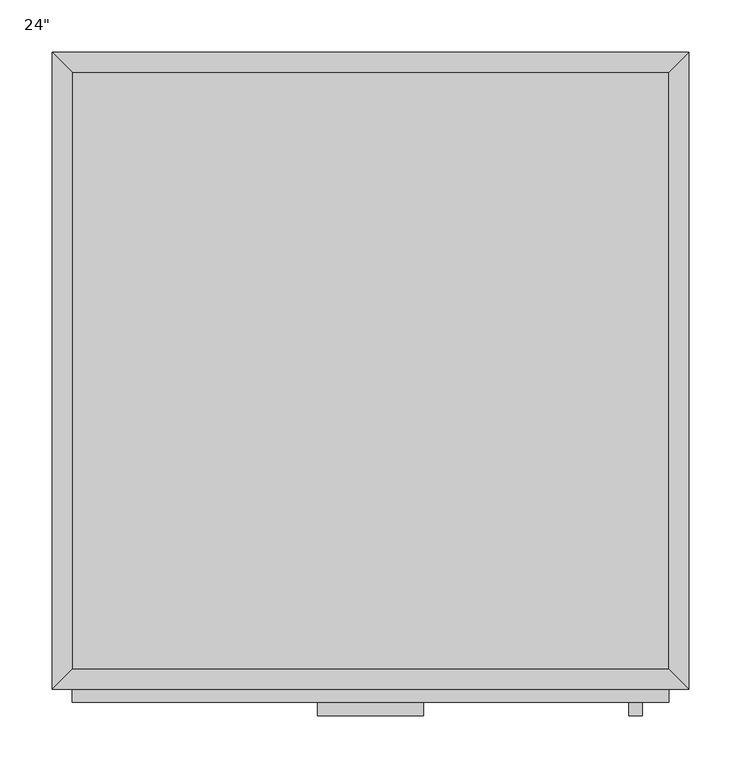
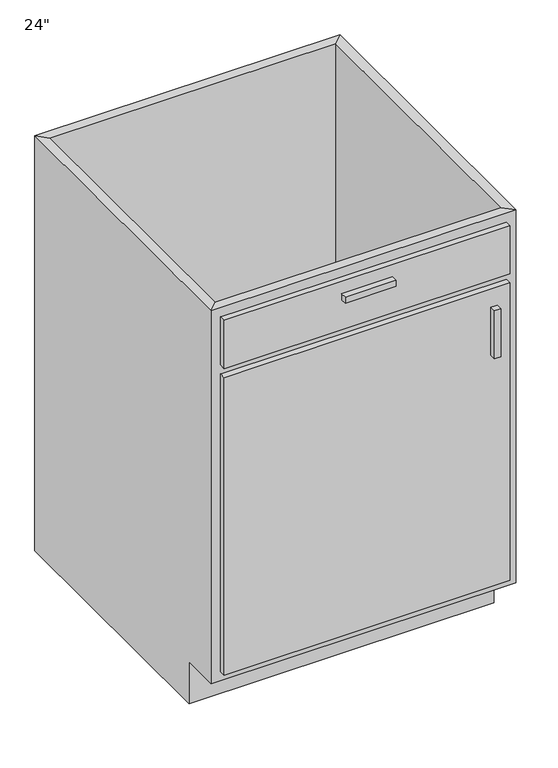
"""IFC4 building model written with IfcOpenShell, lengths in millimetres: furniture geometry."""

from ifc_helpers import new_model, si_unit, frame, origin, place, context, project, spatial, polyline, outline, extrude, faceted_brep, source, transform, mapped, element, save


def furniture_6a014568(model_context):
    return source(origin(), model_context, "Body", "SolidModel", [
        faceted_brep([(304.4877049, -590.55, 876.3), (304.4877049, -590.55, 88.9), (-267.0122951, -590.55, 88.9), (-267.0122951, -590.55, 876.3), (-286.0622951, -609.6, 876.3), (323.5377049, -609.6, 876.3), (-286.0622951, -609.6, 88.9), (323.5377049, -609.6, 88.9), (-267.0122951, -533.4, 88.9), (-267.0122951, -19.05, 88.9), (-267.0122951, -19.05, 876.3), (-286.0622951, 0.0, 876.3), (-286.0622951, 0.0, 0.0), (-286.0622951, -533.4, 0.0), (-286.0622951, -533.4, 88.9), (304.4877049, -19.05, 88.9), (304.4877049, -19.05, 876.3), (323.5377049, 0.0, 876.3), (323.5377049, 0.0, 0.0), (304.4877049, -533.4, 88.9), (323.5377049, -533.4, 88.9), (323.5377049, -533.4, 0.0)], [[[0, 1, 2, 3]], [[0, 3, 4, 5]], [[5, 4, 6, 7]], [[2, 1, 7, 6]], [[3, 2, 8, 9, 10]], [[4, 3, 10, 11]], [[6, 4, 11, 12, 13, 14]], [[2, 6, 14, 8]], [[10, 9, 15, 16]], [[11, 10, 16, 17]], [[12, 11, 17, 18]], [[1, 0, 16, 15, 19]], [[0, 5, 17, 16]], [[5, 7, 20, 21, 18, 17]], [[7, 1, 19, 20]], [[8, 19, 15, 9]], [[18, 21, 13, 12]], [[13, 21, 20, 19, 8, 14]]]),
        extrude(outline(polyline([(279.0877049, -635.0), (266.3877049, -635.0), (266.3877049, -622.3), (279.0877049, -622.3), (279.0877049, -635.0)])), frame((0.0, 0.0, 596.9), z_axis=(0.0, 0.0, 1.0), x_axis=(1.0, 0.0, 0.0)), (0.0, 0.0, 1.0), 101.6),
        extrude(outline(polyline([(69.5377049, -635.0), (-32.0622951, -635.0), (-32.0622951, -622.3), (69.5377049, -622.3), (69.5377049, -635.0)])), frame((0.0, 0.0, 819.15), z_axis=(0.0, 0.0, 1.0), x_axis=(1.0, 0.0, 0.0)), (0.0, 0.0, 1.0), 12.7),
        extrude(outline(polyline([(304.4877049, -622.3), (-267.0122951, -622.3), (-267.0122951, -609.6), (304.4877049, -609.6), (304.4877049, -622.3)])), frame((0.0, 0.0, 107.95), z_axis=(0.0, 0.0, 1.0), x_axis=(1.0, 0.0, 0.0)), (0.0, 0.0, 1.0), 628.65),
        extrude(outline(polyline([(304.4877049, -622.3), (-267.0122951, -622.3), (-267.0122951, -609.6), (304.4877049, -609.6), (304.4877049, -622.3)])), frame((0.0, 0.0, 755.65), z_axis=(0.0, 0.0, 1.0), x_axis=(1.0, 0.0, 0.0)), (0.0, 0.0, 1.0), 101.6),
        extrude(outline(polyline([(304.4877049, -19.05), (304.4877049, -590.55), (-267.0122951, -590.55), (-267.0122951, -19.05), (304.4877049, -19.05)])), frame((0.0, 0.0, 88.9), z_axis=(0.0, 0.0, 1.0), x_axis=(1.0, 0.0, 0.0)), (0.0, 0.0, 1.0), 19.05),
    ])


if __name__ == "__main__":
    model = new_model("IFC4")
    model_context = context("Model", 3, world=origin())
    ifc_project = project(units=[si_unit("LENGTHUNIT", "METRE", prefix="MILLI")], contexts=[model_context])
    site = spatial("IfcSite", under=ifc_project)
    building = spatial("IfcBuilding", under=site)
    placement = place(None, origin())
    furniture_shape = furniture_6a014568(model_context)
    element("IfcFurniture", 1, ObjectType="Base Cabinet-Single Door & Drawer : 24\"", at=placement, inside=building, context=model_context, shape_type="MappedRepresentation", body=[
        mapped(furniture_shape, transform((0.0, 0.0, 0.0), x_axis=(1.0, 0.0, 0.0), y_axis=(0.0, 1.0, 0.0), z_axis=(0.0, 0.0, 1.0))),
    ])
    save(model, "model.ifc")
